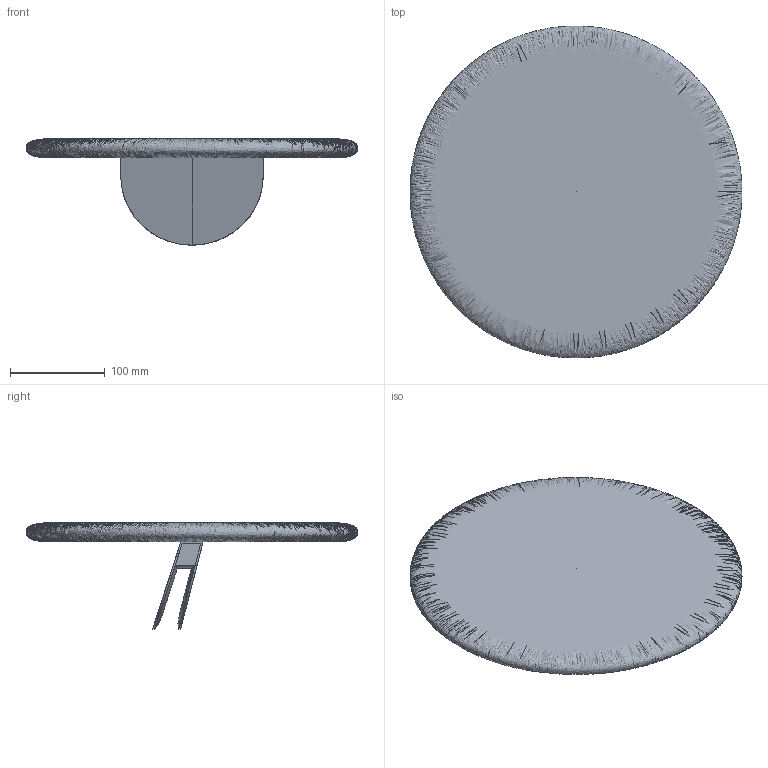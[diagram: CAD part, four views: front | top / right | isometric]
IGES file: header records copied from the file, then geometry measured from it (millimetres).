
Start section: Data from Parasolid IGES Translator 19.0.9, Copyright(c) 2006 Siemens PL M Software. All Rights Reserved.
Global section: file name: noorth-bathtub-H 11 D 35 W 35_5709.igs; native system: By Siemens PLM Incorporated; preprocessor: XPlus GENERIC/IGES 19.0.9; author: Noname; organization: Noname; date: 20200518.114319; units: metre
Bounding box: 350 x 350 x 112 mm (x, y, z)
Surface area: 277474.1 mm2 (no closed solid volume)
Topology: 0 solids, 0 shells, 36 faces, 286 edges, 279 vertices
Faces by surface type: extrusion 20, bspline 14, revolution 2
